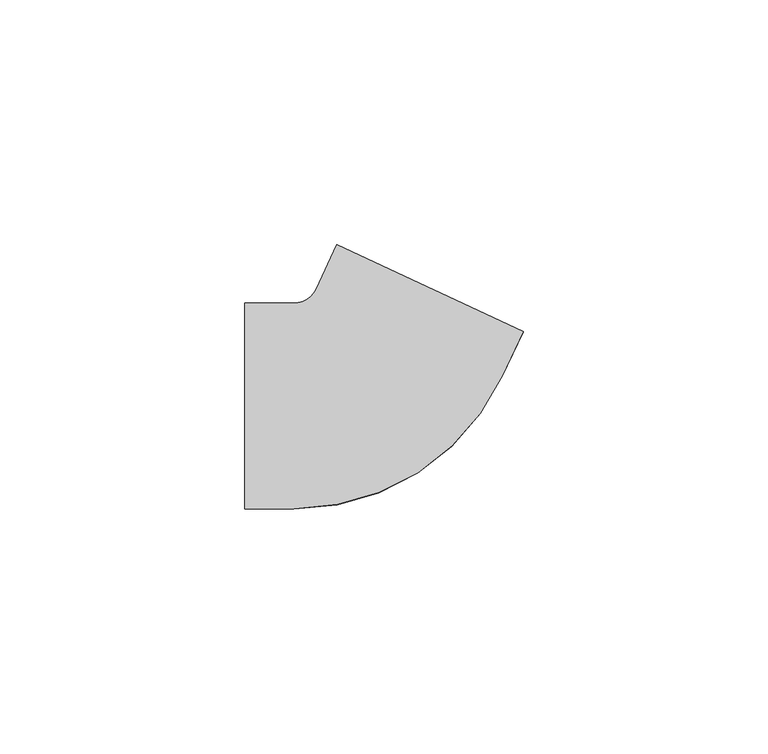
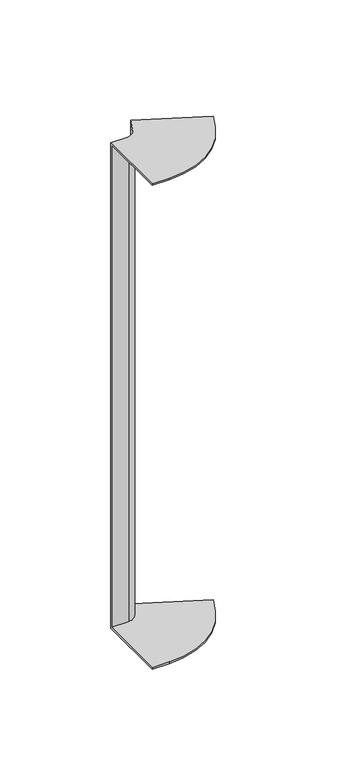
"""IFC4 building model written with IfcOpenShell, lengths in millimetres: cable carrier fitting geometry, BAKS_Articulated_connector : LGJ_H42."""

import ifcopenshell
import ifcopenshell.guid

model = None  # the IFC model being written
_history = None  # IfcOwnerHistory: only IFC2X3 demands one
_inside = {}  # id of a spatial element -> (the spatial element, [elements in it])
_under = {}  # id of a project, library or spatial element -> (it, [spatial elements below it])
_declared = {}  # id of a project -> (the project, [libraries it declares])
_typed = {}  # id of a type object -> (the type object, [elements of that type])
_made_of = {}  # id of a material, layer set ... -> (it, [elements and type objects made of it])


def new_model(schema):
    """Start an empty IFC model of exactly this schema.

    Asked for "IFC4X3", IfcOpenShell would pick the latest addendum, in which some entities
    have other attributes; the version numbers below select the first issue.
    IFC2X3 requires an IfcOwnerHistory on every rooted entity: one is made here for all.
    """
    global model, _history
    if schema == "IFC4X3":
        model = ifcopenshell.file(schema_version=(4, 3, 0, 0))
    else:
        model = ifcopenshell.file(schema=schema)
    _inside.clear()
    _under.clear()
    _declared.clear()
    _typed.clear()
    _made_of.clear()
    _history = None
    if model.schema == "IFC2X3":
        org = make("IfcOrganization", Name="unknown")
        user = make(
            "IfcPersonAndOrganization",
            ThePerson=make("IfcPerson", FamilyName="unknown"),
            TheOrganization=org,
        )
        app = make(
            "IfcApplication",
            ApplicationDeveloper=org,
            Version="unknown",
            ApplicationFullName="unknown",
            ApplicationIdentifier="unknown",
        )
        _history = make(
            "IfcOwnerHistory",
            OwningUser=user,
            OwningApplication=app,
            ChangeAction="ADDED",
            CreationDate=0,
        )
    return model


def make(cls, **values):
    """One entity of the class cls with the attributes given. An attribute that is None is left unset."""
    return model.create_entity(
        cls, **{name: value for name, value in values.items() if value is not None}
    )


def rooted(cls, **values):
    """An entity with a GlobalId (a new one), such as an element, a storey or a relation."""
    return make(cls, GlobalId=ifcopenshell.guid.new(), OwnerHistory=_history, **values)


def si_unit(unit_type, name, prefix=None):
    """IfcSIUnit, for example si_unit("LENGTHUNIT", "METRE", prefix="MILLI")."""
    return make("IfcSIUnit", UnitType=unit_type, Prefix=prefix, Name=name)


def assignment(units):
    """IfcUnitAssignment: the units of a project."""
    return None if units is None else make("IfcUnitAssignment", Units=units)


def point(xyz):
    """IfcCartesianPoint."""
    return None if xyz is None else make("IfcCartesianPoint", Coordinates=xyz)


def direction(xyz):
    """IfcDirection."""
    return None if xyz is None else make("IfcDirection", DirectionRatios=xyz)


def frame(location, z_axis=None, x_axis=None):
    """IfcAxis2Placement3D, a coordinate frame: its origin and axes. An axis left out is left unset."""
    return make(
        "IfcAxis2Placement3D",
        Location=point(location),
        Axis=direction(z_axis),
        RefDirection=direction(x_axis),
    )


def origin():
    """The frame at (0, 0, 0) with its axes left unset."""
    return frame((0.0, 0.0, 0.0))


def place(relative_to, where):
    """IfcLocalPlacement: puts the frame where relative to a parent placement (None: the world)."""
    return make(
        "IfcLocalPlacement", PlacementRelTo=relative_to, RelativePlacement=where
    )


def context(
    kind, dimensions, precision=None, world=None, true_north=None, identifier=None
):
    """IfcGeometricRepresentationContext, for example the 3D "Model" context."""
    return make(
        "IfcGeometricRepresentationContext",
        ContextIdentifier=identifier,
        ContextType=kind,
        CoordinateSpaceDimension=dimensions,
        Precision=precision,
        WorldCoordinateSystem=world,
        TrueNorth=true_north,
    )


def project(units=None, contexts=None):
    """IfcProject with its units and contexts."""
    return rooted(
        "IfcProject",
        Name="project",
        RepresentationContexts=contexts,
        UnitsInContext=assignment(units),
    )


def spatial(cls, under=None, at=None, **own):
    """A site, building, storey or space (cls), placed at a placement, below another one or the project."""
    s = rooted(cls, ObjectPlacement=at, **own)
    if under is not None:
        _under.setdefault(under.id(), (under, []))[1].append(s)
    return s


def polyline(points):
    """IfcPolyline through the points."""
    return make("IfcPolyline", Points=[point(p) for p in points])


def circle_curve(where, radius):
    """IfcCircle in the frame where."""
    return make("IfcCircle", Position=where, Radius=radius)


def shape(context_of_items, identifier, shape_type, items):
    """IfcShapeRepresentation: the items that make up one representation, for example the "Body"."""
    return make(
        "IfcShapeRepresentation",
        ContextOfItems=context_of_items,
        RepresentationIdentifier=identifier,
        RepresentationType=shape_type,
        Items=items,
    )


def source(mapping_origin, context_of_items, identifier, shape_type, items):
    """IfcRepresentationMap: a shape defined once, which mapped items show again and again."""
    return make(
        "IfcRepresentationMap",
        MappingOrigin=mapping_origin,
        MappedRepresentation=shape(context_of_items, identifier, shape_type, items),
    )


def transform(
    local_origin,
    x_axis=None,
    y_axis=None,
    z_axis=None,
    scale=None,
    scale2=None,
    scale3=None,
    uniform=True,
):
    """IfcCartesianTransformationOperator3D, or its non-uniform kind. x_axis, y_axis, z_axis: its Axis1, 2, 3."""
    if uniform:
        return make(
            "IfcCartesianTransformationOperator3D",
            Axis1=direction(x_axis),
            Axis2=direction(y_axis),
            LocalOrigin=point(local_origin),
            Scale=scale,
            Axis3=direction(z_axis),
        )
    return make(
        "IfcCartesianTransformationOperator3DnonUniform",
        Axis1=direction(x_axis),
        Axis2=direction(y_axis),
        LocalOrigin=point(local_origin),
        Scale=scale,
        Axis3=direction(z_axis),
        Scale2=scale2,
        Scale3=scale3,
    )


def mapped(mapping_source, mapping_target):
    """IfcMappedItem: shows the shape of a source again, moved by a transform."""
    return make(
        "IfcMappedItem", MappingSource=mapping_source, MappingTarget=mapping_target
    )


def made_of(thing, what):
    """Note that an element or type object is made of a material, layer set ...; save() writes the relation."""
    if what is not None:
        _made_of.setdefault(what.id(), (what, []))[1].append(thing)
    return thing


def element(
    cls,
    number,
    at=None,
    inside=None,
    cuts=None,
    type_object=None,
    material=None,
    context=None,
    identifier="Body",
    shape_type=None,
    held_by="IfcProductDefinitionShape",
    body=None,
    shapes=None,
    **own,
):
    """One element of the class cls, such as IfcWall. Its Tag is "e" and its number.

    at: its placement. inside: the storey or other place that contains it. cuts: it is an
    opening in that element (IfcRelVoidsElement). A single representation is given by context,
    identifier, shape_type and body (its items); several are given by shapes. held_by: the class
    of the entity that holds the representations. save() writes the other relations.
    """
    e = rooted(cls, Tag="e%d" % number, ObjectPlacement=at, **own)
    if body is not None:
        shapes = [shape(context, identifier, shape_type, body)]
    if shapes is not None:
        e.Representation = make(held_by, Representations=shapes)
    if inside is not None:
        _inside.setdefault(inside.id(), (inside, []))[1].append(e)
    if cuts is not None:
        rooted(
            "IfcRelVoidsElement", RelatingBuildingElement=cuts, RelatedOpeningElement=e
        )
    if type_object is not None:
        _typed.setdefault(type_object.id(), (type_object, []))[1].append(e)
    return made_of(e, material)


def aggregate(whole, parts):
    """IfcRelAggregates: a whole, such as a stair, and the parts it consists of."""
    return rooted("IfcRelAggregates", RelatingObject=whole, RelatedObjects=parts)


def save(model, path):
    """Write the relations noted so far, then the file.

    IfcRelAggregates (storeys below a building ...), IfcRelContainedInSpatialStructure (elements
    in a storey), IfcRelDefinesByType, IfcRelAssociatesMaterial and IfcRelDeclares: one each for
    every whole, place, type object, material and project.
    """
    for whole, parts in _under.values():
        aggregate(whole, parts)
    for where, things in _inside.values():
        rooted(
            "IfcRelContainedInSpatialStructure",
            RelatedElements=things,
            RelatingStructure=where,
        )
    for kind, things in _typed.values():
        rooted("IfcRelDefinesByType", RelatedObjects=things, RelatingType=kind)
    for what, things in _made_of.values():
        rooted("IfcRelAssociatesMaterial", RelatedObjects=things, RelatingMaterial=what)
    for by, libraries in _declared.values():
        rooted("IfcRelDeclares", RelatingContext=by, RelatedDefinitions=libraries)
    model.write(path)


def plane_surface(at):
    """IfcPlane: the flat surface through the origin of the frame at, square to its z axis."""
    return make("IfcPlane", Position=at)


def cylinder_surface(at, radius):
    """IfcCylindricalSurface: all points at the distance radius from the z axis of the frame at."""
    return make("IfcCylindricalSurface", Position=at, Radius=radius)


def revolved_surface(curve, axis_point, axis_direction):
    """IfcSurfaceOfRevolution: the curve turned about the line through axis_point along axis_direction."""
    return make(
        "IfcSurfaceOfRevolution",
        SweptCurve=make("IfcArbitraryOpenProfileDef", ProfileType="CURVE", Curve=curve),
        AxisPosition=make("IfcAxis1Placement", Location=point(axis_point), Axis=direction(axis_direction)),
    )


def advanced_brep(points, edges, surfaces, faces):
    """IfcAdvancedBrep: a solid bounded by faces that lie on surfaces and meet in shared edges.

    An edge is (start, end): straight between two places in points (the first is 0);
    or (start, end, curve); or (start, end, curve, False) where it runs against its curve.
    A face is (place in surfaces, loops), or (place, loops, False) where it looks against
    its surface's normal. A loop lists edges by number (the first is 1), with a minus sign
    where the edge is run from its end to its start. The first loop is the outer one.
    """
    corners = [point(p) for p in points]
    vertices = [make("IfcVertexPoint", VertexGeometry=c) for c in corners]
    made = []
    for start, end, *more in edges:
        made.append(
            make(
                "IfcEdgeCurve",
                EdgeStart=vertices[start],
                EdgeEnd=vertices[end],
                EdgeGeometry=more[0] if more else make("IfcPolyline", Points=[corners[start], corners[end]]),
                SameSense=more[1] if len(more) > 1 else True,
            )
        )
    hull = []
    for where, loops, *sense in faces:
        bounds = []
        for j, loop in enumerate(loops):
            ring = [make("IfcOrientedEdge", EdgeElement=made[abs(k) - 1], Orientation=k > 0) for k in loop]
            bounds.append(
                make(
                    "IfcFaceOuterBound" if j == 0 else "IfcFaceBound",
                    Bound=make("IfcEdgeLoop", EdgeList=ring),
                    Orientation=True,
                )
            )
        hull.append(make("IfcAdvancedFace", Bounds=bounds, FaceSurface=surfaces[where], SameSense=sense[0] if sense else True))
    return make("IfcAdvancedBrep", Outer=make("IfcClosedShell", CfsFaces=hull))


def cable_carrier_fitting_af289c29(model_context):
    return source(origin(), model_context, "Body", "AdvancedBrep", [
        advanced_brep(
        [(-26.5638268, -21.0, 150.0), (-26.5638268, 21.0, 150.0), (-26.5638268, 21.0, -150.0), (-26.5638268, -21.0, -150.0), (-26.5638268, -21.0, -149.0), (-26.5638268, 20.0, -149.0), (-26.5638268, 20.0, 149.0), (-26.5638268, -21.0, 149.0), (30.2588218, 15.2000196, 150.0), (30.2588218, 15.2000196, 149.0), (-6.8997974, 32.5273683, 149.0), (-6.8997974, 32.5273683, -149.0), (30.2588218, 15.2000196, -149.0), (30.2588218, 15.2000196, -150.0), (-7.8061052, 32.9499866, -150.0), (-7.8061052, 32.9499866, 150.0), (-16.5638268, -21.0, 150.0), (26.0326392, 6.1369417, 150.0), (-12.0322878, 23.8869087, 150.0), (-16.5638268, 21.0, 150.0), (-16.5638268, 21.0, -150.0), (-12.0322878, 23.8869087, -150.0), (26.0326392, 6.1369417, -150.0), (-16.5638268, -21.0, -150.0), (-16.5638268, -21.0, -149.0), (26.0326392, 6.1369417, -149.0), (-11.1259801, 23.4642904, -149.0), (-16.5638268, 20.0, -149.0), (-16.5638268, 20.0, 149.0), (-11.1259801, 23.4642904, 149.0), (26.0326392, 6.1369417, 149.0), (-16.5638268, -21.0, 149.0)],
        [
            (0, 1),
            (1, 2),
            (2, 3),
            (3, 4),
            (4, 5),
            (5, 6),
            (6, 7),
            (7, 0),
            (8, 9),
            (9, 10),
            (10, 11),
            (11, 12),
            (12, 13),
            (13, 14),
            (14, 15),
            (15, 8),
            (0, 16),
            (16, 17, circle_curve(frame((-16.5638268, 26.0, 150.0), z_axis=(0.0, 0.0, 1.0), x_axis=(0.0, -1.0, 0.0)), 47.0)),
            (17, 8),
            (15, 18),
            (18, 19, circle_curve(frame((-16.5638268, 26.0, 150.0), z_axis=(0.0, 0.0, -1.0), x_axis=(0.0, -1.0, 0.0)), 5.0)),
            (19, 1),
            (19, 20),
            (20, 2),
            (20, 21, circle_curve(frame((-16.5638268, 26.0, -150.0), z_axis=(0.0, 0.0, 1.0), x_axis=(0.0, -1.0, 0.0)), 5.0)),
            (21, 14),
            (13, 22),
            (22, 23, circle_curve(frame((-16.5638268, 26.0, -150.0), z_axis=(0.0, 0.0, -1.0), x_axis=(0.0, -1.0, 0.0)), 47.0)),
            (23, 3),
            (23, 24),
            (24, 4),
            (24, 25, circle_curve(frame((-16.5638268, 26.0, -149.0), z_axis=(0.0, 0.0, 1.0), x_axis=(0.0, -1.0, 0.0)), 47.0)),
            (25, 12),
            (11, 26),
            (26, 27, circle_curve(frame((-16.5638268, 26.0, -149.0), z_axis=(0.0, 0.0, -1.0), x_axis=(0.0, -1.0, 0.0)), 6.0)),
            (27, 5),
            (27, 28),
            (28, 6),
            (28, 29, circle_curve(frame((-16.5638268, 26.0, 149.0), z_axis=(0.0, 0.0, 1.0), x_axis=(0.0, -1.0, 0.0)), 6.0)),
            (29, 10),
            (9, 30),
            (30, 31, circle_curve(frame((-16.5638268, 26.0, 149.0), z_axis=(0.0, 0.0, -1.0), x_axis=(0.0, -1.0, 0.0)), 47.0)),
            (31, 7),
            (31, 16),
            (18, 21),
            (22, 25),
            (26, 29),
            (30, 17),
        ],
        [
            plane_surface(frame((-26.5638268, 0.0, 0.0), z_axis=(-1.0, 0.0, 0.0), x_axis=(0.0, 0.0, 1.0))),
            plane_surface(frame((11.2263583, 24.0750031, 0.0), z_axis=(0.42261826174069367, 0.9063077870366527, 0.0), x_axis=(0.0, 0.0, 1.0))),
            plane_surface(frame((-26.5638268, -21.0, 150.0), z_axis=(0.0, 0.0, 1.0), x_axis=(1.0, 0.0, 0.0))),
            plane_surface(frame((-26.5638268, 21.0, 150.0), z_axis=(0.0, 1.0, 0.0), x_axis=(1.0, 0.0, 0.0))),
            plane_surface(frame((-26.5638268, 21.0, -150.0), z_axis=(0.0, 0.0, -1.0), x_axis=(1.0, 0.0, 0.0))),
            plane_surface(frame((-26.5638268, -21.0, -150.0), z_axis=(0.0, -1.0, 0.0), x_axis=(1.0, 0.0, 0.0))),
            plane_surface(frame((-26.5638268, -21.0, -149.0), z_axis=(0.0, 0.0, 1.0), x_axis=(1.0, 0.0, 0.0))),
            plane_surface(frame((-26.5638268, 20.0, -149.0), z_axis=(0.0, -1.0, 0.0), x_axis=(1.0, 0.0, 0.0))),
            plane_surface(frame((-26.5638268, 20.0, 149.0), z_axis=(0.0, 0.0, -1.0), x_axis=(1.0, 0.0, 0.0))),
            plane_surface(frame((-26.5638268, -21.0, 149.0), z_axis=(0.0, -1.0, 0.0), x_axis=(1.0, 0.0, 0.0))),
            revolved_surface(polyline([(-16.5638268, 21.0, 150.0), (-16.5638268, 21.0, -150.0)]), (-16.5638268, 26.0, 0.0), (0.0, 0.0, 1.0)),
            cylinder_surface(frame((-16.5638268, 26.0, 0.0), z_axis=(0.0, 0.0, 1.0), x_axis=(0.0, -1.0, 0.0)), 47.0),
            cylinder_surface(frame((-16.5638268, 26.0, 0.0), z_axis=(0.0, 0.0, 1.0), x_axis=(0.0, -1.0, 0.0)), 6.0),
            plane_surface(frame((-12.0322878, 23.8869087, 150.0), z_axis=(-0.9063077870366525, 0.422618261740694, 0.0), x_axis=(0.422618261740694, 0.9063077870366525, 0.0))),
            plane_surface(frame((26.0326392, 6.1369417, -150.0), z_axis=(0.906307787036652, -0.4226182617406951, 0.0), x_axis=(0.4226182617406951, 0.906307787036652, 0.0))),
            plane_surface(frame((-11.1259801, 23.4642904, -149.0), z_axis=(0.9063077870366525, -0.422618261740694, 0.0), x_axis=(0.422618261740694, 0.9063077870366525, 0.0))),
            plane_surface(frame((26.0326392, 6.1369417, 149.0), z_axis=(0.906307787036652, -0.4226182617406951, 0.0), x_axis=(0.4226182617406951, 0.906307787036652, 0.0))),
        ],
        [
            (0, [[1, 2, 3, 4, 5, 6, 7, 8]]),
            (1, [[9, 10, 11, 12, 13, 14, 15, 16]]),
            (2, [[-1, 17, 18, 19, -16, 20, 21, 22]]),
            (3, [[-2, -22, 23, 24]]),
            (4, [[-3, -24, 25, 26, -14, 27, 28, 29]]),
            (5, [[-4, -29, 30, 31]]),
            (6, [[-5, -31, 32, 33, -12, 34, 35, 36]]),
            (7, [[-6, -36, 37, 38]]),
            (8, [[-7, -38, 39, 40, -10, 41, 42, 43]]),
            (9, [[-8, -43, 44, -17]]),
            (10, [[-25, -23, -21, 45]]),
            (11, [[-32, -30, -28, 46]]),
            (12, [[-39, -37, -35, 47]]),
            (11, [[-18, -44, -42, 48]]),
            (13, [[-45, -20, -15, -26]]),
            (14, [[-46, -27, -13, -33]]),
            (15, [[-47, -34, -11, -40]]),
            (16, [[-48, -41, -9, -19]]),
        ],
    ),
    ])


if __name__ == "__main__":
    model = new_model("IFC4")
    model_context = context("Model", 3, world=origin())
    ifc_project = project(units=[si_unit("LENGTHUNIT", "METRE", prefix="MILLI")], contexts=[model_context])
    site = spatial("IfcSite", under=ifc_project)
    building = spatial("IfcBuilding", under=site)
    placement = place(None, origin())
    cable_carrier_fitting_shape = cable_carrier_fitting_af289c29(model_context)
    element("IfcCableCarrierFitting", 1, ObjectType="BAKS_Articulated_connector : LGJ_H42", at=placement, inside=building, context=model_context, shape_type="MappedRepresentation", body=[
        mapped(cable_carrier_fitting_shape, transform((0.0, 0.0, 0.0), x_axis=(1.0, 0.0, 0.0), y_axis=(0.0, 1.0, 0.0), z_axis=(0.0, 0.0, 1.0))),
    ])
    save(model, "model.ifc")
